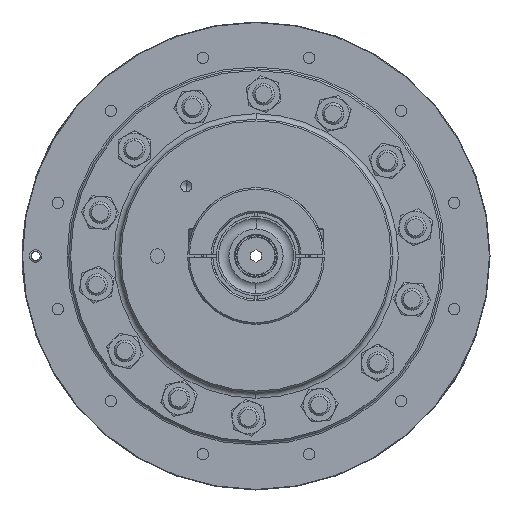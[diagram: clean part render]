
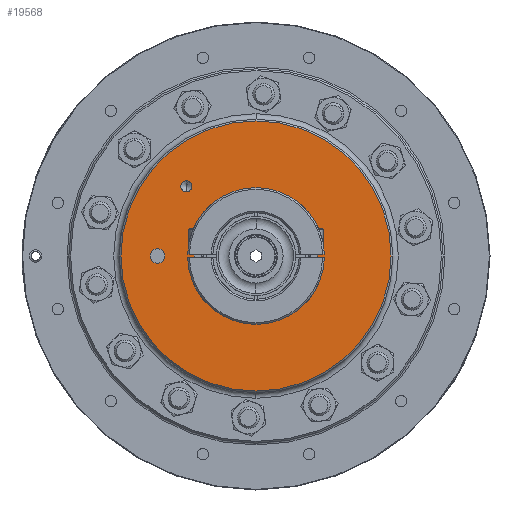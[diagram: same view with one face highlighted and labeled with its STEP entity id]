
A CAD part, left-side view. The second image highlights one B-rep face of the part: STEP entity #19568.
In plain terms, the highlighted planar face has unit normal (-1, 0, 0).
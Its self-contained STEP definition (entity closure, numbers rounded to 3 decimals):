
#879 = EDGE_CURVE ( 'NONE', #21025, #9815, #19566, .T. ) ;
#1654 = EDGE_CURVE ( 'NONE', #26148, #31582, #12534, .T. ) ;
#1881 = CARTESIAN_POINT ( 'NONE',  ( 1.905, 30.712, 33.138 ) ) ;
#2650 = CARTESIAN_POINT ( 'NONE',  ( 1.905, 0., 0. ) ) ;
#3052 = DIRECTION ( 'NONE',  ( -1., 0., 0. ) ) ;
#3135 = EDGE_CURVE ( 'NONE', #18178, #17268, #9949, .T. ) ;
#3506 = CIRCLE ( 'NONE', #25586, 3.175 ) ;
#4038 = AXIS2_PLACEMENT_3D ( 'NONE', #27077, #12895, #9389 ) ;
#4308 = DIRECTION ( 'NONE',  ( -1., 0., 0. ) ) ;
#4323 = ORIENTED_EDGE ( 'NONE', *, *, #1654, .T. ) ;
#4590 = AXIS2_PLACEMENT_3D ( 'NONE', #7355, #19573, #26048 ) ;
#4789 = DIRECTION ( 'NONE',  ( -1., 0., 0. ) ) ;
#5193 = ORIENTED_EDGE ( 'NONE', *, *, #34978, .F. ) ;
#5636 = CIRCLE ( 'NONE', #17974, 59.563 ) ;
#5820 = ORIENTED_EDGE ( 'NONE', *, *, #31422, .F. ) ;
#5882 = CARTESIAN_POINT ( 'NONE',  ( 1.905, 0., 0. ) ) ;
#6065 = EDGE_CURVE ( 'NONE', #33446, #38950, #16763, .T. ) ;
#7355 = CARTESIAN_POINT ( 'NONE',  ( 1.905, 30.712, 30.712 ) ) ;
#7548 = CARTESIAN_POINT ( 'NONE',  ( 1.905, 0., 0. ) ) ;
#9389 = DIRECTION ( 'NONE',  ( 0., 0., 1. ) ) ;
#9701 = DIRECTION ( 'NONE',  ( 0., 0., 1. ) ) ;
#9815 = VERTEX_POINT ( 'NONE', #1881 ) ;
#9940 = AXIS2_PLACEMENT_3D ( 'NONE', #23207, #20152, #32526 ) ;
#9949 = CIRCLE ( 'NONE', #12624, 27.178 ) ;
#10404 = FACE_BOUND ( 'NONE', #10514, .T. ) ;
#10514 = EDGE_LOOP ( 'NONE', ( #5193, #38286 ) ) ;
#11142 = EDGE_LOOP ( 'NONE', ( #13418, #18325 ) ) ;
#12534 = CIRCLE ( 'NONE', #4038, 3.175 ) ;
#12624 = AXIS2_PLACEMENT_3D ( 'NONE', #5882, #37547, #9701 ) ;
#12895 = DIRECTION ( 'NONE',  ( 1., 0., 0. ) ) ;
#13418 = ORIENTED_EDGE ( 'NONE', *, *, #6065, .T. ) ;
#14567 = CARTESIAN_POINT ( 'NONE',  ( 1.905, 30.712, 30.712 ) ) ;
#14715 = CARTESIAN_POINT ( 'NONE',  ( 1.905, 43.434, -3.175 ) ) ;
#15448 = DIRECTION ( 'NONE',  ( 0., 0., 1. ) ) ;
#15569 = CARTESIAN_POINT ( 'NONE',  ( 1.905, 0., 27.178 ) ) ;
#16112 = CARTESIAN_POINT ( 'NONE',  ( 1.905, 0., 59.563 ) ) ;
#16324 = FACE_BOUND ( 'NONE', #37610, .T. ) ;
#16737 = DIRECTION ( 'NONE',  ( 0., 0., 1. ) ) ;
#16763 = CIRCLE ( 'NONE', #38807, 59.563 ) ;
#17222 = DIRECTION ( 'NONE',  ( 0., 0., 1. ) ) ;
#17268 = VERTEX_POINT ( 'NONE', #15569 ) ;
#17601 = DIRECTION ( 'NONE',  ( 0., 0., 1. ) ) ;
#17974 = AXIS2_PLACEMENT_3D ( 'NONE', #7548, #4308, #16737 ) ;
#18107 = EDGE_CURVE ( 'NONE', #38950, #33446, #5636, .T. ) ;
#18178 = VERTEX_POINT ( 'NONE', #23827 ) ;
#18218 = ORIENTED_EDGE ( 'NONE', *, *, #34791, .T. ) ;
#18325 = ORIENTED_EDGE ( 'NONE', *, *, #18107, .T. ) ;
#18493 = CIRCLE ( 'NONE', #19139, 2.426 ) ;
#19139 = AXIS2_PLACEMENT_3D ( 'NONE', #14567, #26321, #17601 ) ;
#19566 = CIRCLE ( 'NONE', #4590, 2.426 ) ;
#19568 = ADVANCED_FACE ( 'NONE', ( #28152, #38437, #10404, #16324 ), #19582, .T. ) ;
#19573 = DIRECTION ( 'NONE',  ( -1., 0., 0. ) ) ;
#19582 = PLANE ( 'NONE',  #9940 ) ;
#19768 = CIRCLE ( 'NONE', #30110, 27.178 ) ;
#20152 = DIRECTION ( 'NONE',  ( -1., 0., 0. ) ) ;
#21025 = VERTEX_POINT ( 'NONE', #30752 ) ;
#23207 = CARTESIAN_POINT ( 'NONE',  ( 1.905, 59.563, 0. ) ) ;
#23827 = CARTESIAN_POINT ( 'NONE',  ( 1.905, 0., -27.178 ) ) ;
#24974 = DIRECTION ( 'NONE',  ( 0., 0., 1. ) ) ;
#25435 = CARTESIAN_POINT ( 'NONE',  ( 1.905, 0., -59.563 ) ) ;
#25586 = AXIS2_PLACEMENT_3D ( 'NONE', #34250, #27971, #24974 ) ;
#26048 = DIRECTION ( 'NONE',  ( 0., 0., 1. ) ) ;
#26148 = VERTEX_POINT ( 'NONE', #33369 ) ;
#26321 = DIRECTION ( 'NONE',  ( -1., 0., 0. ) ) ;
#27077 = CARTESIAN_POINT ( 'NONE',  ( 1.905, 43.434, 0. ) ) ;
#27971 = DIRECTION ( 'NONE',  ( 1., 0., 0. ) ) ;
#28152 = FACE_BOUND ( 'NONE', #33535, .T. ) ;
#30110 = AXIS2_PLACEMENT_3D ( 'NONE', #32621, #4789, #17222 ) ;
#30752 = CARTESIAN_POINT ( 'NONE',  ( 1.905, 30.712, 28.287 ) ) ;
#31422 = EDGE_CURVE ( 'NONE', #9815, #21025, #18493, .T. ) ;
#31582 = VERTEX_POINT ( 'NONE', #14715 ) ;
#32526 = DIRECTION ( 'NONE',  ( 0., 0., 1. ) ) ;
#32621 = CARTESIAN_POINT ( 'NONE',  ( 1.905, 0., 0. ) ) ;
#33369 = CARTESIAN_POINT ( 'NONE',  ( 1.905, 43.434, 3.175 ) ) ;
#33446 = VERTEX_POINT ( 'NONE', #25435 ) ;
#33535 = EDGE_LOOP ( 'NONE', ( #5820, #39026 ) ) ;
#34250 = CARTESIAN_POINT ( 'NONE',  ( 1.905, 43.434, 0. ) ) ;
#34791 = EDGE_CURVE ( 'NONE', #31582, #26148, #3506, .T. ) ;
#34978 = EDGE_CURVE ( 'NONE', #17268, #18178, #19768, .T. ) ;
#37547 = DIRECTION ( 'NONE',  ( -1., 0., 0. ) ) ;
#37610 = EDGE_LOOP ( 'NONE', ( #4323, #18218 ) ) ;
#38286 = ORIENTED_EDGE ( 'NONE', *, *, #3135, .F. ) ;
#38437 = FACE_OUTER_BOUND ( 'NONE', #11142, .T. ) ;
#38807 = AXIS2_PLACEMENT_3D ( 'NONE', #2650, #3052, #15448 ) ;
#38950 = VERTEX_POINT ( 'NONE', #16112 ) ;
#39026 = ORIENTED_EDGE ( 'NONE', *, *, #879, .F. ) ;
